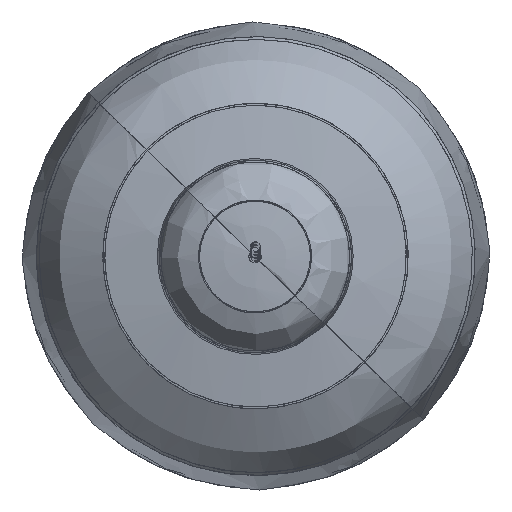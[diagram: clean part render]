
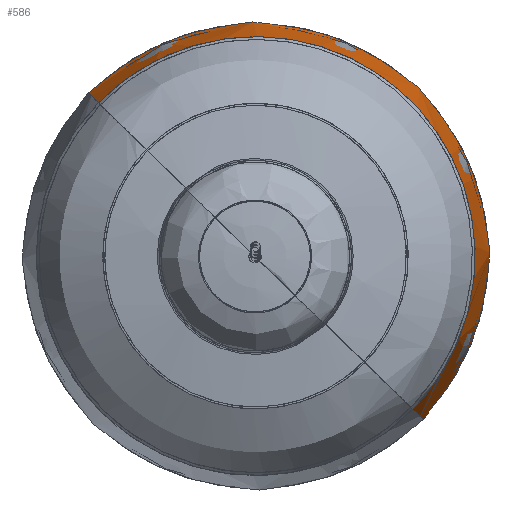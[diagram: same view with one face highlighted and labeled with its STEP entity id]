
A CAD part, top view. The second image highlights one B-rep face of the part: STEP entity #586.
In plain terms, the highlighted free-form (B-spline) face has degree [2, 2] with [9, 5] control points.
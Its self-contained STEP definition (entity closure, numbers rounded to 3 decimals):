
#586=ADVANCED_FACE('',(#638),#2743,.T.);
#638=FACE_OUTER_BOUND('',#690,.T.);
#690=EDGE_LOOP('',(#765,#766,#767,#768));
#765=ORIENTED_EDGE('',*,*,#2141,.T.);
#766=ORIENTED_EDGE('',*,*,#2142,.T.);
#767=ORIENTED_EDGE('',*,*,#2143,.T.);
#768=ORIENTED_EDGE('',*,*,#2144,.T.);
#1019=PCURVE('',#2743,#1273);
#1020=PCURVE('',#2743,#1274);
#1021=PCURVE('',#2743,#1275);
#1022=PCURVE('',#2743,#1276);
#1273=DEFINITIONAL_REPRESENTATION('',(#1527),#13989);
#1274=DEFINITIONAL_REPRESENTATION('',(#1528),#13989);
#1275=DEFINITIONAL_REPRESENTATION('',(#1529),#13989);
#1276=DEFINITIONAL_REPRESENTATION('',(#1530),#13989);
#1527=B_SPLINE_CURVE_WITH_KNOTS('',1,(#3359,#3360),.UNSPECIFIED.,.F.,.F.,
(2,2),(-139.677,0.),.UNSPECIFIED.);
#1528=B_SPLINE_CURVE_WITH_KNOTS('',1,(#3366,#3367),.UNSPECIFIED.,.F.,.F.,
(2,2),(0.,572.173),.UNSPECIFIED.);
#1529=B_SPLINE_CURVE_WITH_KNOTS('',1,(#3371,#3372),.UNSPECIFIED.,.F.,.F.,
(2,2),(-139.677,0.),.UNSPECIFIED.);
#1530=B_SPLINE_CURVE_WITH_KNOTS('',1,(#3378,#3379),.UNSPECIFIED.,.F.,.F.,
(2,2),(-540.277,0.),.UNSPECIFIED.);
#1893=SURFACE_CURVE('',#2389,(#1019),.PCURVE_S1.);
#1894=SURFACE_CURVE('',#2390,(#1020),.PCURVE_S1.);
#1895=SURFACE_CURVE('',#2391,(#1021),.PCURVE_S1.);
#1896=SURFACE_CURVE('',#2392,(#1022),.PCURVE_S1.);
#2141=EDGE_CURVE('',#2515,#2513,#1893,.T.);
#2142=EDGE_CURVE('',#2513,#2514,#1894,.T.);
#2143=EDGE_CURVE('',#2514,#2516,#1895,.T.);
#2144=EDGE_CURVE('',#2516,#2515,#1896,.T.);
#2389=(
BOUNDED_CURVE()
B_SPLINE_CURVE(2,(#3356,#3357,#3358),.UNSPECIFIED.,.F.,.F.)
B_SPLINE_CURVE_WITH_KNOTS((3,3),(-139.677,0.),.UNSPECIFIED.)
CURVE()
GEOMETRIC_REPRESENTATION_ITEM()
RATIONAL_B_SPLINE_CURVE((1.,0.99,1.))
REPRESENTATION_ITEM('')
);
#2390=(
BOUNDED_CURVE()
B_SPLINE_CURVE(2,(#3361,#3362,#3363,#3364,#3365),.UNSPECIFIED.,.F.,.F.)
B_SPLINE_CURVE_WITH_KNOTS((3,2,3),(0.,286.086,572.173),
 .UNSPECIFIED.)
CURVE()
GEOMETRIC_REPRESENTATION_ITEM()
RATIONAL_B_SPLINE_CURVE((1.,0.707,1.,0.707,1.))
REPRESENTATION_ITEM('')
);
#2391=(
BOUNDED_CURVE()
B_SPLINE_CURVE(2,(#3368,#3369,#3370),.UNSPECIFIED.,.F.,.F.)
B_SPLINE_CURVE_WITH_KNOTS((3,3),(-139.677,0.),.UNSPECIFIED.)
CURVE()
GEOMETRIC_REPRESENTATION_ITEM()
RATIONAL_B_SPLINE_CURVE((1.,0.99,1.))
REPRESENTATION_ITEM('')
);
#2392=(
BOUNDED_CURVE()
B_SPLINE_CURVE(2,(#3373,#3374,#3375,#3376,#3377),.UNSPECIFIED.,.F.,.F.)
B_SPLINE_CURVE_WITH_KNOTS((3,2,3),(-540.277,-270.138,
0.),.UNSPECIFIED.)
CURVE()
GEOMETRIC_REPRESENTATION_ITEM()
RATIONAL_B_SPLINE_CURVE((1.,0.707,1.,0.707,1.))
REPRESENTATION_ITEM('')
);
#2513=VERTEX_POINT('',#3352);
#2514=VERTEX_POINT('',#3353);
#2515=VERTEX_POINT('',#3354);
#2516=VERTEX_POINT('',#3355);
#2743=(
BOUNDED_SURFACE()
B_SPLINE_SURFACE(2,2,((#3307,#3308,#3309,#3310,#3311),(#3312,#3313,#3314,
#3315,#3316),(#3317,#3318,#3319,#3320,#3321),(#3322,#3323,#3324,#3325,#3326),
(#3327,#3328,#3329,#3330,#3331),(#3332,#3333,#3334,#3335,#3336),(#3337,
#3338,#3339,#3340,#3341),(#3342,#3343,#3344,#3345,#3346),(#3347,#3348,#3349,
#3350,#3351)),.UNSPECIFIED.,.T.,.F.,.F.)
B_SPLINE_SURFACE_WITH_KNOTS((3,2,2,2,3),(3,2,3),(-1877.768,-1408.326,
-938.884,-469.442,0.),(0.,435.154,870.308),
 .UNSPECIFIED.)
GEOMETRIC_REPRESENTATION_ITEM()
RATIONAL_B_SPLINE_SURFACE(((1.,0.9,1.,0.9,1.),
(0.707,0.636,0.707,0.636,
0.707),(1.,0.9,1.,0.9,1.),(0.707,
0.636,0.707,0.636,0.707),
(1.,0.9,1.,0.9,1.),(0.707,0.636,
0.707,0.636,0.707),(1.,0.9,
1.,0.9,1.),(0.707,0.636,0.707,
0.636,0.707),(1.,0.9,1.,0.9,
1.)))
REPRESENTATION_ITEM('')
SURFACE()
);
#3307=CARTESIAN_POINT('',(-0.938,0.925,219.606));
#3308=CARTESIAN_POINT('',(-59.363,-59.049,153.075));
#3309=CARTESIAN_POINT('',(-59.136,-58.817,46.132));
#3310=CARTESIAN_POINT('',(-58.91,-58.584,-60.81));
#3311=CARTESIAN_POINT('',(-0.204,1.678,-126.832));
#3312=CARTESIAN_POINT('',(-0.938,0.925,219.606));
#3313=CARTESIAN_POINT('',(-119.481,-0.484,153.075));
#3314=CARTESIAN_POINT('',(-119.255,-0.251,46.132));
#3315=CARTESIAN_POINT('',(-119.028,-0.019,-60.81));
#3316=CARTESIAN_POINT('',(-0.204,1.678,-126.832));
#3317=CARTESIAN_POINT('',(-0.938,0.925,219.606));
#3318=CARTESIAN_POINT('',(-60.916,59.635,153.329));
#3319=CARTESIAN_POINT('',(-60.689,59.867,46.387));
#3320=CARTESIAN_POINT('',(-60.463,60.099,-60.556));
#3321=CARTESIAN_POINT('',(-0.204,1.678,-126.832));
#3322=CARTESIAN_POINT('',(-0.938,0.925,219.606));
#3323=CARTESIAN_POINT('',(-2.35,119.753,153.584));
#3324=CARTESIAN_POINT('',(-2.124,119.985,46.642));
#3325=CARTESIAN_POINT('',(-1.897,120.218,-60.301));
#3326=CARTESIAN_POINT('',(-0.204,1.678,-126.832));
#3327=CARTESIAN_POINT('',(-0.938,0.925,219.606));
#3328=CARTESIAN_POINT('',(57.768,61.187,153.584));
#3329=CARTESIAN_POINT('',(57.995,61.419,46.642));
#3330=CARTESIAN_POINT('',(58.221,61.652,-60.301));
#3331=CARTESIAN_POINT('',(-0.204,1.678,-126.832));
#3332=CARTESIAN_POINT('',(-0.938,0.925,219.606));
#3333=CARTESIAN_POINT('',(117.886,2.621,153.584));
#3334=CARTESIAN_POINT('',(118.113,2.854,46.642));
#3335=CARTESIAN_POINT('',(118.339,3.086,-60.301));
#3336=CARTESIAN_POINT('',(-0.204,1.678,-126.832));
#3337=CARTESIAN_POINT('',(-0.938,0.925,219.606));
#3338=CARTESIAN_POINT('',(59.321,-57.497,153.329));
#3339=CARTESIAN_POINT('',(59.547,-57.264,46.387));
#3340=CARTESIAN_POINT('',(59.774,-57.032,-60.556));
#3341=CARTESIAN_POINT('',(-0.204,1.678,-126.832));
#3342=CARTESIAN_POINT('',(-0.938,0.925,219.606));
#3343=CARTESIAN_POINT('',(0.756,-117.615,153.075));
#3344=CARTESIAN_POINT('',(0.982,-117.383,46.132));
#3345=CARTESIAN_POINT('',(1.208,-117.15,-60.81));
#3346=CARTESIAN_POINT('',(-0.204,1.678,-126.832));
#3347=CARTESIAN_POINT('',(-0.938,0.925,219.606));
#3348=CARTESIAN_POINT('',(-59.363,-59.049,153.075));
#3349=CARTESIAN_POINT('',(-59.136,-58.817,46.132));
#3350=CARTESIAN_POINT('',(-58.91,-58.584,-60.81));
#3351=CARTESIAN_POINT('',(-0.204,1.678,-126.832));
#3352=CARTESIAN_POINT('',(59.173,-56.833,30.549));
#3353=CARTESIAN_POINT('',(-60.248,59.504,30.549));
#3354=CARTESIAN_POINT('',(55.71,-53.728,94.086));
#3355=CARTESIAN_POINT('',(-57.054,56.124,94.086));
#3356=CARTESIAN_POINT('',(55.71,-53.728,94.086));
#3357=CARTESIAN_POINT('',(60.76,-58.515,62.657));
#3358=CARTESIAN_POINT('',(59.173,-56.833,30.549));
#3359=CARTESIAN_POINT('',(-469.442,328.699));
#3360=CARTESIAN_POINT('',(-469.442,470.713));
#3361=CARTESIAN_POINT('',(59.173,-56.833,30.549));
#3362=CARTESIAN_POINT('',(117.342,2.878,30.802));
#3363=CARTESIAN_POINT('',(57.631,61.046,30.802));
#3364=CARTESIAN_POINT('',(-2.08,119.215,30.802));
#3365=CARTESIAN_POINT('',(-60.248,59.504,30.549));
#3366=CARTESIAN_POINT('',(-469.442,470.713));
#3367=CARTESIAN_POINT('',(-1408.326,470.713));
#3368=CARTESIAN_POINT('',(-60.248,59.504,30.549));
#3369=CARTESIAN_POINT('',(-61.971,61.046,62.657));
#3370=CARTESIAN_POINT('',(-57.054,56.124,94.086));
#3371=CARTESIAN_POINT('',(-1408.326,470.713));
#3372=CARTESIAN_POINT('',(-1408.326,328.699));
#3373=CARTESIAN_POINT('',(-57.054,56.124,94.086));
#3374=CARTESIAN_POINT('',(-2.128,112.506,94.325));
#3375=CARTESIAN_POINT('',(54.254,57.58,94.325));
#3376=CARTESIAN_POINT('',(110.636,2.653,94.325));
#3377=CARTESIAN_POINT('',(55.71,-53.728,94.086));
#3378=CARTESIAN_POINT('',(-1408.326,328.699));
#3379=CARTESIAN_POINT('',(-469.442,328.699));
#13989=(
GEOMETRIC_REPRESENTATION_CONTEXT(2)
PARAMETRIC_REPRESENTATION_CONTEXT()
REPRESENTATION_CONTEXT('pspace','')
);
